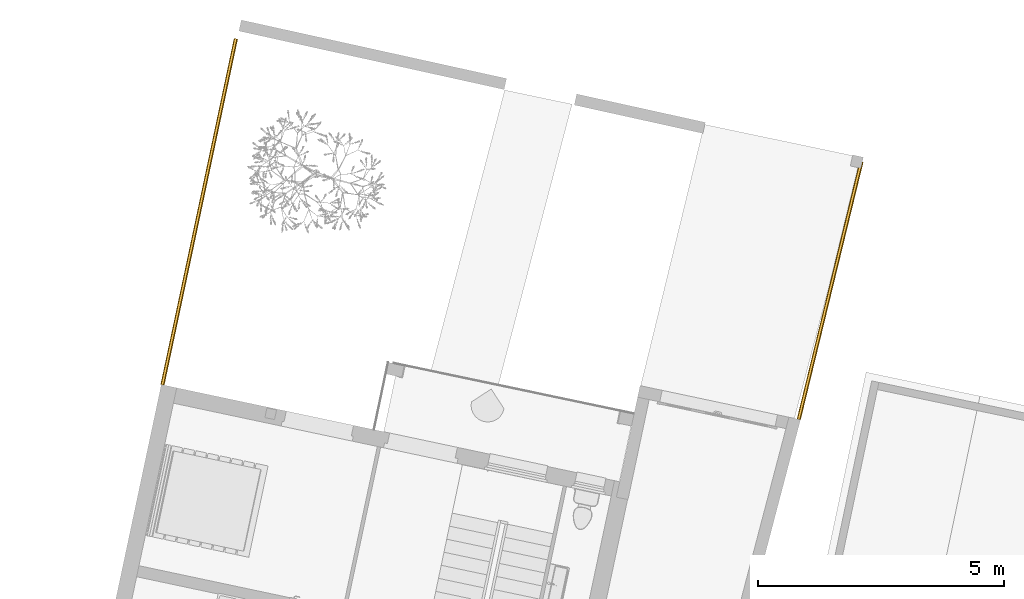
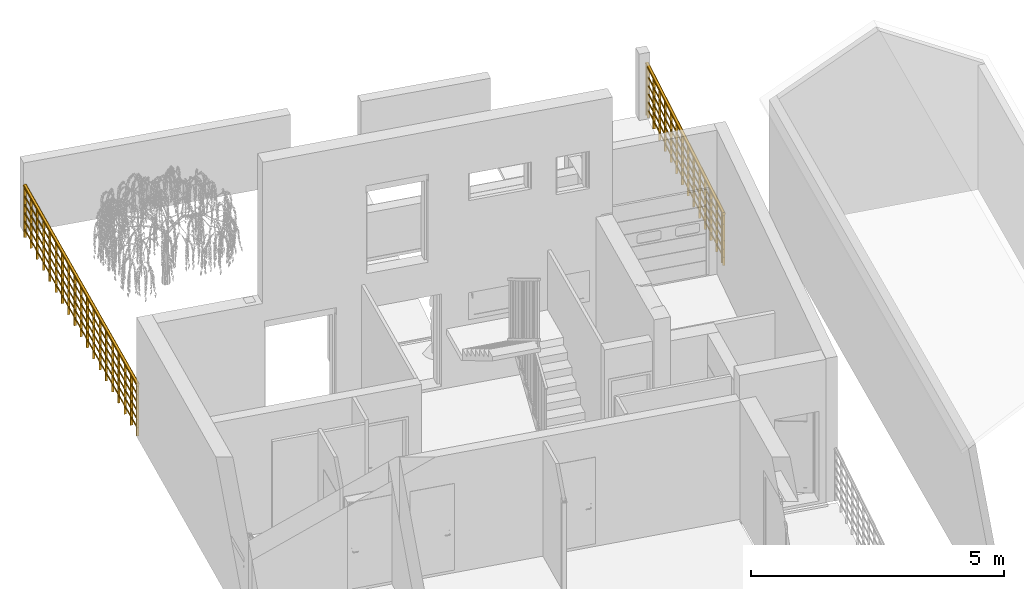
# One storey, part 16 of 20: 2 railings.
"""IFC2X3 building model written with IfcOpenShell, lengths in metres."""

from ifc_helpers import new_model, entity, si_unit, converted_unit, derived_unit, direction, frame, frame_2d, origin, origin_2d_with_axis, place, context, subcontext, project, spatial, polyline, rectangle, circle, outline, extrude, material, material_list, element, save


model = new_model("IFC2X3")

# Units and contexts
model_context = context("Model", 3, precision=1e-05, world=origin(), true_north=direction((6.12303176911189e-17, 1.0)))
body_context = subcontext(model_context, "Body", "Model", "MODEL_VIEW")
ifc_project = project(units=[si_unit("LENGTHUNIT", "METRE"), si_unit("AREAUNIT", "SQUARE_METRE"), si_unit("VOLUMEUNIT", "CUBIC_METRE"), converted_unit("PLANEANGLEUNIT", "DEGREE", entity("IfcRatioMeasure", 0.0174532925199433), si_unit("PLANEANGLEUNIT", "RADIAN"), dimensions=[0, 0, 0, 0, 0, 0, 0]), si_unit("MASSUNIT", "GRAM", prefix="KILO"), derived_unit("MASSDENSITYUNIT", [(si_unit("MASSUNIT", "GRAM", prefix="KILO"), 1), (si_unit("LENGTHUNIT", "METRE"), -3)]), si_unit("TIMEUNIT", "SECOND"), si_unit("FREQUENCYUNIT", "HERTZ"), si_unit("THERMODYNAMICTEMPERATUREUNIT", "DEGREE_CELSIUS"), derived_unit("THERMALTRANSMITTANCEUNIT", [(si_unit("MASSUNIT", "GRAM", prefix="KILO"), 1), (si_unit("THERMODYNAMICTEMPERATUREUNIT", "KELVIN"), -1), (si_unit("TIMEUNIT", "SECOND"), -3)]), derived_unit("VOLUMETRICFLOWRATEUNIT", [(si_unit("LENGTHUNIT", "METRE"), 3), (si_unit("TIMEUNIT", "SECOND"), -1)]), si_unit("ELECTRICCURRENTUNIT", "AMPERE"), si_unit("ELECTRICVOLTAGEUNIT", "VOLT"), si_unit("POWERUNIT", "WATT"), si_unit("FORCEUNIT", "NEWTON", prefix="KILO"), si_unit("ILLUMINANCEUNIT", "LUX"), si_unit("LUMINOUSFLUXUNIT", "LUMEN"), si_unit("LUMINOUSINTENSITYUNIT", "CANDELA"), derived_unit("USERDEFINED", [(si_unit("MASSUNIT", "GRAM", prefix="KILO"), -1), (si_unit("LENGTHUNIT", "METRE"), -2), (si_unit("TIMEUNIT", "SECOND"), 3), (si_unit("LUMINOUSFLUXUNIT", "LUMEN"), 1)]), derived_unit("LINEARVELOCITYUNIT", [(si_unit("LENGTHUNIT", "METRE"), 1), (si_unit("TIMEUNIT", "SECOND"), -1)]), si_unit("PRESSUREUNIT", "PASCAL"), derived_unit("USERDEFINED", [(si_unit("LENGTHUNIT", "METRE"), -2), (si_unit("MASSUNIT", "GRAM", prefix="KILO"), 1), (si_unit("TIMEUNIT", "SECOND"), -2)])], contexts=[model_context])

# Site, building, storey
site_placement = place(None, origin())
site = spatial("IfcSite", under=ifc_project, at=site_placement, Name="Default", CompositionType="ELEMENT")
building_placement = place(site_placement, origin())
building = spatial("IfcBuilding", under=site, at=building_placement, CompositionType="ELEMENT")
storey_placement = place(building_placement, frame((0.0, 0.0, -0.0686871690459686)))
storey = spatial("IfcBuildingStorey", under=building, at=storey_placement, Name="RDC", CompositionType="ELEMENT", Elevation=-0.0686871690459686)

# Railings
ifc_material_1 = material(Name="noir acier")
ifc_material_2 = material(Name="Finition Peinture Grise")
ifc_material_list_1 = material_list([ifc_material_1, ifc_material_2])
railing_1_placement = place(storey_placement, origin())
element("IfcRailing", 1, at=railing_1_placement, inside=storey, material=ifc_material_list_1, Name="Garde-corps:Type Bateau 1,25 m", ObjectType="Garde-corps:Type Bateau 1,25 m", PredefinedType="NOTDEFINED", context=body_context, shape_type="SweptSolid", body=[
    extrude(rectangle(XDim=0.0499999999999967, YDim=0.0140000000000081, at=frame_2d((3.22658566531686e-16, 8.9234175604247e-15), x_axis=(1.0, 0.0))), frame((-18.385298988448, 93.9318647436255, 0.0), z_axis=(0.0, 0.0, 1.0), x_axis=(-0.97823834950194, 0.207484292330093, 0.0)), (0.0, 0.0, 1.0), 1.21984653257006),
    extrude(rectangle(XDim=0.0499999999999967, YDim=0.0140000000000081, at=frame_2d((1.79717352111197e-15, -8.4741241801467e-15), x_axis=(1.0, 0.0))), frame((-18.4682927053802, 93.5405694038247, 0.0), z_axis=(0.0, 0.0, 1.0), x_axis=(-0.97823834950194, 0.207484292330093, 0.0)), (0.0, 0.0, 1.0), 1.21984653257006),
    extrude(rectangle(XDim=0.0499999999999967, YDim=0.0140000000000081, at=frame_2d((3.91700560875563e-15, -8.0252644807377e-15), x_axis=(1.0, 0.0))), frame((-18.5512864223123, 93.1492740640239, 0.0), z_axis=(0.0, 0.0, 1.0), x_axis=(-0.97823834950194, 0.207484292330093, 0.0)), (0.0, 0.0, 1.0), 1.21984653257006),
    extrude(rectangle(XDim=0.0499999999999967, YDim=0.0140000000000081, at=frame_2d((-1.79717352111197e-15, 8.4741241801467e-15), x_axis=(1.0, 0.0))), frame((-18.6342801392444, 92.7579787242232, 0.0), z_axis=(0.0, 0.0, 1.0), x_axis=(-0.97823834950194, 0.207484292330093, 0.0)), (0.0, 0.0, 1.0), 1.21984653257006),
    extrude(rectangle(XDim=0.0499999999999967, YDim=0.0140000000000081, at=frame_2d((3.91700560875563e-15, -8.0252644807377e-15), x_axis=(1.0, 0.0))), frame((-18.7172738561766, 92.3666833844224, 0.0), z_axis=(0.0, 0.0, 1.0), x_axis=(-0.97823834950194, 0.207484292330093, 0.0)), (0.0, 0.0, 1.0), 1.21984653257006),
    extrude(rectangle(XDim=0.0499999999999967, YDim=0.0140000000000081, at=frame_2d((1.79717352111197e-15, -8.4741241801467e-15), x_axis=(1.0, 0.0))), frame((-18.8002675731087, 91.9753880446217, 0.0), z_axis=(0.0, 0.0, 1.0), x_axis=(-0.97823834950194, 0.207484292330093, 0.0)), (0.0, 0.0, 1.0), 1.21984653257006),
    extrude(rectangle(XDim=0.0499999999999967, YDim=0.0140000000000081, at=frame_2d((3.22658566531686e-16, 8.9234175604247e-15), x_axis=(1.0, 0.0))), frame((-18.8832612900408, 91.5840927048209, 0.0), z_axis=(0.0, 0.0, 1.0), x_axis=(-0.97823834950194, 0.207484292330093, 0.0)), (0.0, 0.0, 1.0), 1.21984653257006),
    extrude(rectangle(XDim=0.0499999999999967, YDim=0.0140000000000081, at=frame_2d((-1.79717352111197e-15, 8.4741241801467e-15), x_axis=(1.0, 0.0))), frame((-18.966255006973, 91.1927973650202, 0.0), z_axis=(0.0, 0.0, 1.0), x_axis=(-0.97823834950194, 0.207484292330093, 0.0)), (0.0, 0.0, 1.0), 1.21984653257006),
    extrude(rectangle(XDim=0.0499999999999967, YDim=0.0140000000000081, at=frame_2d((3.91700560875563e-15, -8.0252644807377e-15), x_axis=(1.0, 0.0))), frame((-19.0492487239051, 90.8015020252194, 0.0), z_axis=(0.0, 0.0, 1.0), x_axis=(-0.97823834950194, 0.207484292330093, 0.0)), (0.0, 0.0, 1.0), 1.21984653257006),
    extrude(rectangle(XDim=0.0499999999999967, YDim=0.0140000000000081, at=frame_2d((-1.79717352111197e-15, 8.4741241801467e-15), x_axis=(1.0, 0.0))), frame((-19.1322424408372, 90.4102066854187, 0.0), z_axis=(0.0, 0.0, 1.0), x_axis=(-0.97823834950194, 0.207484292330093, 0.0)), (0.0, 0.0, 1.0), 1.21984653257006),
    extrude(rectangle(XDim=0.0499999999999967, YDim=0.0140000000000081, at=frame_2d((-3.91700560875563e-15, 8.0252644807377e-15), x_axis=(1.0, 0.0))), frame((-19.2152361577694, 90.0189113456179, 0.0), z_axis=(0.0, 0.0, 1.0), x_axis=(-0.97823834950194, 0.207484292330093, 0.0)), (0.0, 0.0, 1.0), 1.21984653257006),
    extrude(rectangle(XDim=0.0499999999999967, YDim=0.0140000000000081, at=frame_2d((1.79717352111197e-15, -8.4741241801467e-15), x_axis=(1.0, 0.0))), frame((-19.2982298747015, 89.6276160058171, 0.0), z_axis=(0.0, 0.0, 1.0), x_axis=(-0.97823834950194, 0.207484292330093, 0.0)), (0.0, 0.0, 1.0), 1.21984653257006),
    extrude(rectangle(XDim=0.0499999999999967, YDim=0.0140000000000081, at=frame_2d((-1.79717352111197e-15, 8.4741241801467e-15), x_axis=(1.0, 0.0))), frame((-19.3812235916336, 89.2363206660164, 0.0), z_axis=(0.0, 0.0, 1.0), x_axis=(-0.97823834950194, 0.207484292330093, 0.0)), (0.0, 0.0, 1.0), 1.21984653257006),
    extrude(rectangle(XDim=0.0499999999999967, YDim=0.0140000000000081, at=frame_2d((-1.79717352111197e-15, 8.4741241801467e-15), x_axis=(1.0, 0.0))), frame((-19.4642173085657, 88.8450253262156, 0.0), z_axis=(0.0, 0.0, 1.0), x_axis=(-0.97823834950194, 0.207484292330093, 0.0)), (0.0, 0.0, 1.0), 1.21984653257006),
    extrude(rectangle(XDim=0.0499999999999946, YDim=0.0140000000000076, at=frame_2d((1.795438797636e-15, -8.4741241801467e-15), x_axis=(1.0, 0.0))), frame((-19.5472110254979, 88.4537299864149, 0.0), z_axis=(0.0, 0.0, 1.0), x_axis=(-0.978238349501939, 0.207484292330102, 0.0)), (0.0, 0.0, 1.0), 1.21984653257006),
    extrude(rectangle(XDim=0.0499999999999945, YDim=0.0140000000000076, at=frame_2d((2.44249065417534e-15, 9.37314462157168e-15), x_axis=(1.0, 0.0))), frame((-19.63020474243, 88.0624346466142, 0.0), z_axis=(0.0, 0.0, 1.0), x_axis=(-0.978238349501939, 0.207484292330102, 0.0)), (0.0, 0.0, 1.0), 1.21984653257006),
    extrude(rectangle(XDim=0.0499999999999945, YDim=0.0140000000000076, at=frame_2d((-1.795438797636e-15, 8.4741241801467e-15), x_axis=(1.0, 0.0))), frame((-19.7131984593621, 87.6711393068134, 0.0), z_axis=(0.0, 0.0, 1.0), x_axis=(-0.978238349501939, 0.207484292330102, 0.0)), (0.0, 0.0, 1.0), 1.21984653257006),
    extrude(rectangle(XDim=0.0499999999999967, YDim=0.0140000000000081, at=frame_2d((1.79717352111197e-15, -8.4741241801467e-15), x_axis=(1.0, 0.0))), frame((-18.3043801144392, 94.3133776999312, 0.0), z_axis=(0.0, 0.0, 1.0), x_axis=(-0.97823834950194, 0.207484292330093, 0.0)), (0.0, 0.0, 1.0), 1.21984653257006),
    extrude(rectangle(XDim=0.0499999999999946, YDim=0.0140000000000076, at=frame_2d((6.03510297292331e-15, -7.57553741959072e-15), x_axis=(1.0, 0.0))), frame((-19.794117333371, 87.2896263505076, 0.0), z_axis=(0.0, 0.0, 1.0), x_axis=(-0.978238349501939, 0.207484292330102, 0.0)), (0.0, 0.0, 1.0), 1.21984653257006),
    extrude(outline(polyline([(-0.0109067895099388, -0.0384843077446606), (0.00177588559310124, -0.0384843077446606), (0.0141514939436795, -0.03183002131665), (0.0240801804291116, -0.0196720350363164), (0.029845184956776, -0.00411257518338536), (0.0304496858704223, 0.0121579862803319), (0.02578915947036, 0.0263263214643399), (0.0166694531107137, 0.0359425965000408), (0.0109067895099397, 0.0384843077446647), (-0.00177588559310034, 0.0384843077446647), (-0.0141514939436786, 0.0318300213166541), (-0.0240801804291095, 0.0196720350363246), (-0.0298451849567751, 0.00411257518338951), (-0.0304496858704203, -0.0121579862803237), (-0.0257891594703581, -0.0263263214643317), (-0.0166694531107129, -0.0359425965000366), (-0.0109067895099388, -0.0384843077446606)])), frame((-19.7969249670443, 87.2787940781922, 1.25), z_axis=(0.207484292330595, 0.978238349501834, 0.0), x_axis=(0.26673599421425, -0.0565746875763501, 0.962107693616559)), (0.0, 0.0, 1.0), 7.2),
    extrude(circle(Radius=0.015, at=origin_2d_with_axis()), frame((-19.7969249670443, 87.2787940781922, 1.185), z_axis=(0.207484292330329, 0.97823834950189, 0.0), x_axis=(0.97823834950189, -0.207484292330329, 0.0)), (0.0, 0.0, 1.0), 7.2),
    extrude(circle(Radius=0.015, at=origin_2d_with_axis()), frame((-19.7969249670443, 87.2787940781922, 0.985), z_axis=(0.207484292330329, 0.97823834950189, 0.0), x_axis=(0.97823834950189, -0.207484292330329, 0.0)), (0.0, 0.0, 1.0), 7.2),
    extrude(circle(Radius=0.015, at=origin_2d_with_axis()), frame((-19.7969249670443, 87.2787940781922, 0.785), z_axis=(0.207484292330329, 0.97823834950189, 0.0), x_axis=(0.97823834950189, -0.207484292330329, 0.0)), (0.0, 0.0, 1.0), 7.2),
    extrude(circle(Radius=0.015, at=origin_2d_with_axis()), frame((-19.7969249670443, 87.2787940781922, 0.585), z_axis=(0.207484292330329, 0.97823834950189, 0.0), x_axis=(0.97823834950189, -0.207484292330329, 0.0)), (0.0, 0.0, 1.0), 7.2),
    extrude(circle(Radius=0.015, at=origin_2d_with_axis()), frame((-19.7969249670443, 87.2787940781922, 0.385), z_axis=(0.207484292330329, 0.97823834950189, 0.0), x_axis=(0.97823834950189, -0.207484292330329, 0.0)), (0.0, 0.0, 1.0), 7.2),
    extrude(circle(Radius=0.015, at=origin_2d_with_axis()), frame((-19.7969249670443, 87.2787940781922, 0.185), z_axis=(0.207484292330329, 0.97823834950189, 0.0), x_axis=(0.97823834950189, -0.207484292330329, 0.0)), (0.0, 0.0, 1.0), 7.2),
])
ifc_material_list_2 = material_list([ifc_material_1, ifc_material_2])
railing_2_placement = place(storey_placement, origin())
element("IfcRailing", 2, at=railing_2_placement, inside=storey, material=ifc_material_list_2, Name="Garde-corps:Type Bateau 1,25 m", ObjectType="Garde-corps:Type Bateau 1,25 m", PredefinedType="NOTDEFINED", context=body_context, shape_type="SweptSolid", body=[
    extrude(rectangle(XDim=0.0499999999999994, YDim=0.013999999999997, at=origin_2d_with_axis()), frame((-5.59462881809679, 91.7268113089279, 0.0), z_axis=(0.0, 0.0, 1.0), x_axis=(-0.971659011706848, 0.236386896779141, 0.0)), (0.0, 0.0, 1.0), 1.21984653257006),
    extrude(rectangle(XDim=0.0499999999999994, YDim=0.013999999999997, at=origin_2d_with_axis()), frame((-5.68918357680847, 91.3381477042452, 0.0), z_axis=(0.0, 0.0, 1.0), x_axis=(-0.971659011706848, 0.236386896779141, 0.0)), (0.0, 0.0, 1.0), 1.21984653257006),
    extrude(rectangle(XDim=0.0499999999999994, YDim=0.013999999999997, at=origin_2d_with_axis()), frame((-5.78373833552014, 90.9494840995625, 0.0), z_axis=(0.0, 0.0, 1.0), x_axis=(-0.971659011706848, 0.236386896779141, 0.0)), (0.0, 0.0, 1.0), 1.21984653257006),
    extrude(rectangle(XDim=0.0499999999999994, YDim=0.013999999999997, at=origin_2d_with_axis()), frame((-5.87829309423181, 90.5608204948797, 0.0), z_axis=(0.0, 0.0, 1.0), x_axis=(-0.971659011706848, 0.236386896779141, 0.0)), (0.0, 0.0, 1.0), 1.21984653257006),
    extrude(rectangle(XDim=0.0499999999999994, YDim=0.013999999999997, at=origin_2d_with_axis()), frame((-5.97284785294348, 90.172156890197, 0.0), z_axis=(0.0, 0.0, 1.0), x_axis=(-0.971659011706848, 0.236386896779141, 0.0)), (0.0, 0.0, 1.0), 1.21984653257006),
    extrude(rectangle(XDim=0.0499999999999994, YDim=0.013999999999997, at=origin_2d_with_axis()), frame((-6.06740261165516, 89.7834932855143, 0.0), z_axis=(0.0, 0.0, 1.0), x_axis=(-0.971659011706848, 0.236386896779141, 0.0)), (0.0, 0.0, 1.0), 1.21984653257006),
    extrude(rectangle(XDim=0.0499999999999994, YDim=0.013999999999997, at=origin_2d_with_axis()), frame((-6.16195737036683, 89.3948296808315, 0.0), z_axis=(0.0, 0.0, 1.0), x_axis=(-0.971659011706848, 0.236386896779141, 0.0)), (0.0, 0.0, 1.0), 1.21984653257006),
    extrude(rectangle(XDim=0.0499999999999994, YDim=0.013999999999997, at=origin_2d_with_axis()), frame((-6.2565121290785, 89.0061660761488, 0.0), z_axis=(0.0, 0.0, 1.0), x_axis=(-0.971659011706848, 0.236386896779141, 0.0)), (0.0, 0.0, 1.0), 1.21984653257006),
    extrude(rectangle(XDim=0.0499999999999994, YDim=0.013999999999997, at=origin_2d_with_axis()), frame((-6.35106688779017, 88.6175024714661, 0.0), z_axis=(0.0, 0.0, 1.0), x_axis=(-0.971659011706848, 0.236386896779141, 0.0)), (0.0, 0.0, 1.0), 1.21984653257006),
    extrude(rectangle(XDim=0.0499999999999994, YDim=0.013999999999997, at=origin_2d_with_axis()), frame((-6.44562164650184, 88.2288388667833, 0.0), z_axis=(0.0, 0.0, 1.0), x_axis=(-0.971659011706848, 0.236386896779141, 0.0)), (0.0, 0.0, 1.0), 1.21984653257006),
    extrude(rectangle(XDim=0.0499999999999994, YDim=0.013999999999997, at=origin_2d_with_axis()), frame((-6.54017640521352, 87.8401752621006, 0.0), z_axis=(0.0, 0.0, 1.0), x_axis=(-0.971659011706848, 0.236386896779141, 0.0)), (0.0, 0.0, 1.0), 1.21984653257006),
    extrude(rectangle(XDim=0.0499999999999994, YDim=0.013999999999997, at=origin_2d_with_axis()), frame((-6.63473116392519, 87.4515116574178, 0.0), z_axis=(0.0, 0.0, 1.0), x_axis=(-0.971659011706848, 0.236386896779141, 0.0)), (0.0, 0.0, 1.0), 1.21984653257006),
    extrude(rectangle(XDim=0.0499999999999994, YDim=0.013999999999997, at=origin_2d_with_axis()), frame((-6.72928592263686, 87.0628480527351, 0.0), z_axis=(0.0, 0.0, 1.0), x_axis=(-0.971659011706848, 0.236386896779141, 0.0)), (0.0, 0.0, 1.0), 1.21984653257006),
    extrude(rectangle(XDim=0.0499999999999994, YDim=0.013999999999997, at=origin_2d_with_axis()), frame((-6.82384068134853, 86.6741844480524, 0.0), z_axis=(0.0, 0.0, 1.0), x_axis=(-0.971659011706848, 0.236386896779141, 0.0)), (0.0, 0.0, 1.0), 1.21984653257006),
    extrude(rectangle(XDim=0.0499999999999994, YDim=0.013999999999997, at=origin_2d_with_axis()), frame((-5.57335399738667, 91.8142606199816, 0.0), z_axis=(0.0, 0.0, 1.0), x_axis=(-0.971659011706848, 0.236386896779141, 0.0)), (0.0, 0.0, 1.0), 1.21984653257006),
    extrude(rectangle(XDim=0.0499999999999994, YDim=0.013999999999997, at=origin_2d_with_axis()), frame((-6.84511550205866, 86.5867351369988, 0.0), z_axis=(0.0, 0.0, 1.0), x_axis=(-0.971659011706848, 0.236386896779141, 0.0)), (0.0, 0.0, 1.0), 1.21984653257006),
    extrude(outline(polyline([(-0.0109067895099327, -0.0384843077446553), (0.00177588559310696, -0.0384843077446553), (0.0141514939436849, -0.031830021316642), (0.0240801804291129, -0.0196720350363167), (0.0298451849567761, -0.00411257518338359), (0.0304496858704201, 0.0121579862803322), (0.0257891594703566, 0.026326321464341), (0.0166694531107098, 0.035942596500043), (0.0109067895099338, 0.0384843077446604), (-0.00177588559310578, 0.0384843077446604), (-0.0141514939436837, 0.0318300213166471), (-0.0240801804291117, 0.0196720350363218), (-0.0298451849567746, 0.00411257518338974), (-0.0304496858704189, -0.0121579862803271), (-0.0257891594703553, -0.0263263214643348), (-0.0166694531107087, -0.0359425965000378), (-0.0109067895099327, -0.0384843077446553)])), frame((-6.84824295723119, 86.5759908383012, 1.25), z_axis=(0.236386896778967, 0.97165901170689, 0.0), x_axis=(0.264942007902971, -0.0644555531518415, 0.962107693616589)), (0.0, 0.0, 1.0), 5.39999999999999),
    extrude(circle(Radius=0.015, at=origin_2d_with_axis()), frame((-6.84824295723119, 86.5759908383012, 1.185), z_axis=(0.23638689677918, 0.971659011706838, 0.0), x_axis=(0.971659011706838, -0.23638689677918, 0.0)), (0.0, 0.0, 1.0), 5.39999999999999),
    extrude(circle(Radius=0.015, at=origin_2d_with_axis()), frame((-6.84824295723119, 86.5759908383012, 0.985), z_axis=(0.23638689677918, 0.971659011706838, 0.0), x_axis=(0.971659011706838, -0.23638689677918, 0.0)), (0.0, 0.0, 1.0), 5.39999999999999),
    extrude(circle(Radius=0.015, at=origin_2d_with_axis()), frame((-6.84824295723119, 86.5759908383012, 0.785), z_axis=(0.23638689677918, 0.971659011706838, 0.0), x_axis=(0.971659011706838, -0.23638689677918, 0.0)), (0.0, 0.0, 1.0), 5.39999999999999),
    extrude(circle(Radius=0.015, at=origin_2d_with_axis()), frame((-6.84824295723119, 86.5759908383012, 0.585), z_axis=(0.23638689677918, 0.971659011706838, 0.0), x_axis=(0.971659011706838, -0.23638689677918, 0.0)), (0.0, 0.0, 1.0), 5.39999999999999),
    extrude(circle(Radius=0.015, at=origin_2d_with_axis()), frame((-6.84824295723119, 86.5759908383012, 0.385), z_axis=(0.23638689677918, 0.971659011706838, 0.0), x_axis=(0.971659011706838, -0.23638689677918, 0.0)), (0.0, 0.0, 1.0), 5.39999999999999),
    extrude(circle(Radius=0.015, at=origin_2d_with_axis()), frame((-6.84824295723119, 86.5759908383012, 0.185), z_axis=(0.23638689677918, 0.971659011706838, 0.0), x_axis=(0.971659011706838, -0.23638689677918, 0.0)), (0.0, 0.0, 1.0), 5.39999999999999),
])

save(model, "model.ifc")
